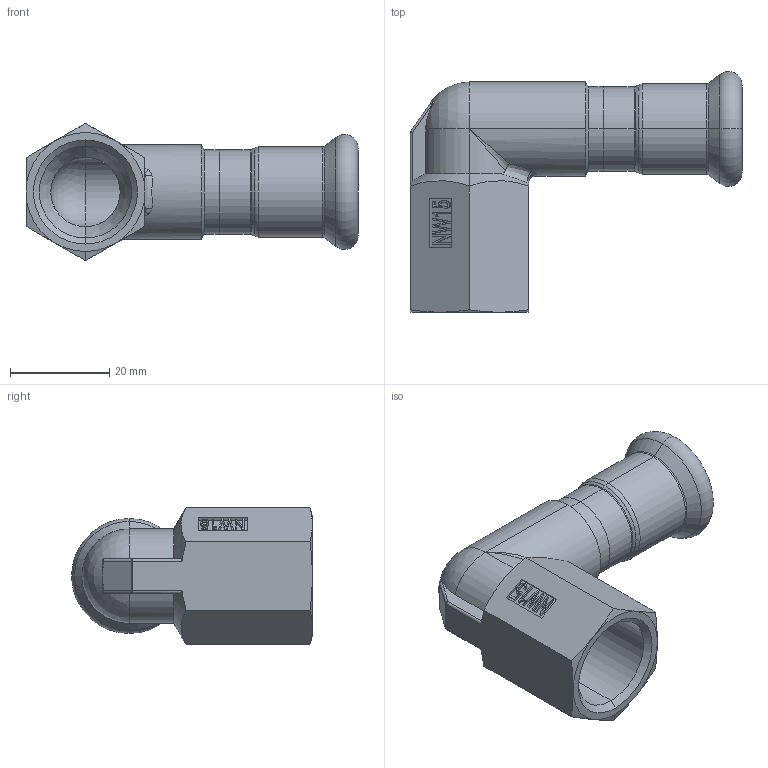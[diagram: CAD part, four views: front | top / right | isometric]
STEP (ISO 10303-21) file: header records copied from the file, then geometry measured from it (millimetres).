
FILE_DESCRIPTION (( 'STEP AP203' ), '1' );
FILE_NAME ('GDA5291.STEP', '2019-01-15T05:22:21', ( '' ), ( '' ), 'SwSTEP 2.0', 'SolidWorks 2015', '' );
FILE_SCHEMA (( 'CONFIG_CONTROL_DESIGN' ));
Length unit declared in the file: millimetre
Products named in the file (3): OD15｡ﾁ0.5; GDA5291; T-ｉ-01-15
Assembly tree (2 placements, depth 2):
  GDA5291
    OD15｡ﾁ0.5
    T-ｉ-01-15
Bounding box: 67 x 48.6 x 27.71 mm (x, y, z)
Volume: 13598.8 mm3; surface area: 11394.1 mm2
Topology: 2 solids, 2 shells, 157 faces, 376 edges, 222 vertices
Faces by surface type: plane 60, cylinder 32, cone 24, bspline 19, torus 16, sphere 6
Entity records: 5633 total; most frequent: CARTESIAN_POINT 1881, ORIENTED_EDGE 736, DIRECTION 690, EDGE_CURVE 368, AXIS2_PLACEMENT_3D 250, VERTEX_POINT 221, LINE 190, VECTOR 190
